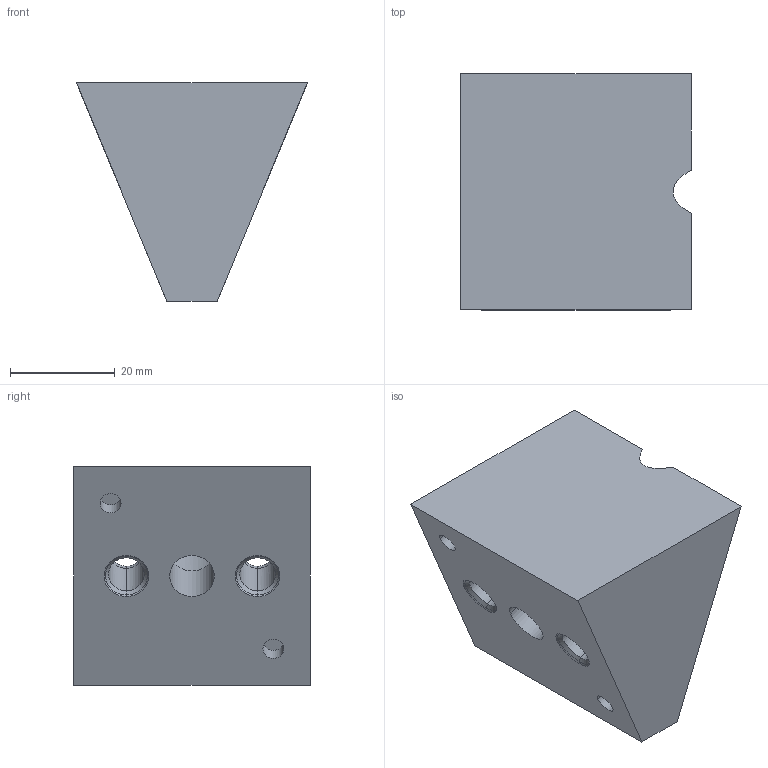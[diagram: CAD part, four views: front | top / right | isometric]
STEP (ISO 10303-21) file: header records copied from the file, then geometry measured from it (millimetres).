
FILE_DESCRIPTION((''),'2;1');
FILE_NAME('GIA4545','2002-12-27T',('Lipro doo'),('Lipro d.o.o.'),'PRO/ENGINEER BY PARAMETRIC TECHNOLOGY CORPORATION, 2001150','PRO/ENGINEER BY PARAMETRIC TECHNOLOGY CORPORATION, 2001150','');
FILE_SCHEMA(('CONFIG_CONTROL_DESIGN'));
Length unit declared in the file: millimetre
Products named in the file (1): GIA4545
Bounding box: 44 x 45 x 41.57 mm (x, y, z)
Volume: 43729.4 mm3; surface area: 12187 mm2
Topology: 1 solids, 5 shells, 49 faces, 121 edges, 80 vertices
Faces by surface type: cylinder 24, plane 13, cone 12
Entity records: 1596 total; most frequent: CARTESIAN_POINT 347, DIRECTION 269, ORIENTED_EDGE 226, EDGE_CURVE 121, AXIS2_PLACEMENT_3D 112, VERTEX_POINT 80, CIRCLE 62, EDGE_LOOP 61
